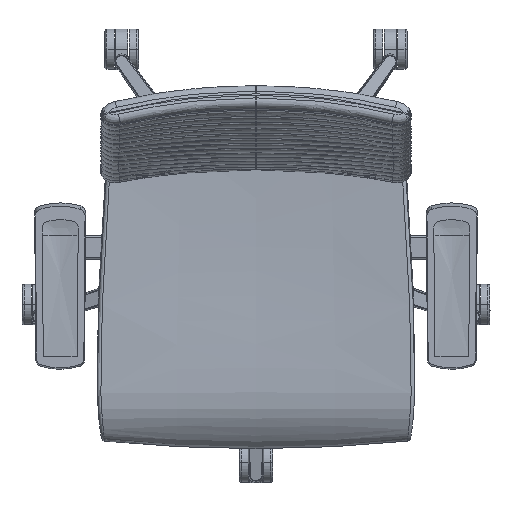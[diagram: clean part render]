
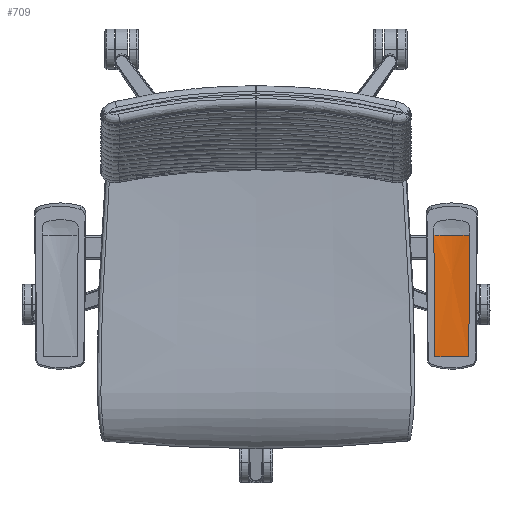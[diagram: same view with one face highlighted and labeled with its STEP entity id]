
A CAD part, top view. The second image highlights one B-rep face of the part: STEP entity #709.
In plain terms, the highlighted free-form (B-spline) face has degree [3, 2] with [4, 3] control points.
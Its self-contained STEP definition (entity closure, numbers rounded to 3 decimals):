
#709=ADVANCED_FACE('',(#1426),#9711,.T.);
#1426=FACE_OUTER_BOUND('',#2143,.T.);
#2143=EDGE_LOOP('',(#4772,#4773,#4774,#4775,#4776));
#4772=ORIENTED_EDGE('',*,*,#6679,.T.);
#4773=ORIENTED_EDGE('',*,*,#6677,.T.);
#4774=ORIENTED_EDGE('',*,*,#6678,.T.);
#4775=ORIENTED_EDGE('',*,*,#6680,.T.);
#4776=ORIENTED_EDGE('',*,*,#6696,.T.);
#6677=EDGE_CURVE('',#9407,#9408,#7266,.T.);
#6678=EDGE_CURVE('',#9408,#9406,#7267,.T.);
#6679=EDGE_CURVE('',#9409,#9407,#7268,.T.);
#6680=EDGE_CURVE('',#9406,#9410,#7269,.T.);
#6696=EDGE_CURVE('',#9410,#9409,#8477,.T.);
#7266=(
BOUNDED_CURVE()
B_SPLINE_CURVE(2,(#52786,#52787,#52788),.UNSPECIFIED.,.F.,.F.)
B_SPLINE_CURVE_WITH_KNOTS((3,3),(0.,26.864),.UNSPECIFIED.)
CURVE()
GEOMETRIC_REPRESENTATION_ITEM()
RATIONAL_B_SPLINE_CURVE((1.,0.994,1.))
REPRESENTATION_ITEM('')
);
#7267=(
BOUNDED_CURVE()
B_SPLINE_CURVE(2,(#52789,#52790,#52791),.UNSPECIFIED.,.F.,.F.)
B_SPLINE_CURVE_WITH_KNOTS((3,3),(-26.864,0.),.UNSPECIFIED.)
CURVE()
GEOMETRIC_REPRESENTATION_ITEM()
RATIONAL_B_SPLINE_CURVE((1.,0.994,1.))
REPRESENTATION_ITEM('')
);
#7268=(
BOUNDED_CURVE()
B_SPLINE_CURVE(3,(#52792,#52793,#52794,#52795),.UNSPECIFIED.,.F.,.F.)
B_SPLINE_CURVE_WITH_KNOTS((4,4),(0.,180.167),.UNSPECIFIED.)
CURVE()
GEOMETRIC_REPRESENTATION_ITEM()
RATIONAL_B_SPLINE_CURVE((1.,1.,1.,1.))
REPRESENTATION_ITEM('')
);
#7269=(
BOUNDED_CURVE()
B_SPLINE_CURVE(3,(#52796,#52797,#52798,#52799),.UNSPECIFIED.,.F.,.F.)
B_SPLINE_CURVE_WITH_KNOTS((4,4),(-180.167,0.),.UNSPECIFIED.)
CURVE()
GEOMETRIC_REPRESENTATION_ITEM()
RATIONAL_B_SPLINE_CURVE((1.,1.,1.,1.))
REPRESENTATION_ITEM('')
);
#8477=B_SPLINE_CURVE_WITH_KNOTS('',1,(#52861,#52862),.UNSPECIFIED.,.F.,
 .F.,(2,2),(0.,50.276),.UNSPECIFIED.);
#9406=VERTEX_POINT('',#52758);
#9407=VERTEX_POINT('',#52759);
#9408=VERTEX_POINT('',#52760);
#9409=VERTEX_POINT('',#52761);
#9410=VERTEX_POINT('',#52762);
#9711=(
BOUNDED_SURFACE()
B_SPLINE_SURFACE(3,2,((#52678,#52679,#52680),(#52681,#52682,#52683),(#52684,
#52685,#52686),(#52687,#52688,#52689)),.UNSPECIFIED.,.F.,.F.,.F.)
B_SPLINE_SURFACE_WITH_KNOTS((4,4),(3,3),(0.,180.167),(-53.728,
0.),.UNSPECIFIED.)
GEOMETRIC_REPRESENTATION_ITEM()
RATIONAL_B_SPLINE_SURFACE(((1.,0.975,1.),(1.,0.975,
1.),(1.,0.975,1.),(1.,0.975,1.)))
REPRESENTATION_ITEM('')
SURFACE()
);
#52678=CARTESIAN_POINT('',(315.828,-164.805,673.407));
#52679=CARTESIAN_POINT('',(290.691,-164.805,673.407));
#52680=CARTESIAN_POINT('',(265.553,-164.805,673.407));
#52681=CARTESIAN_POINT('',(316.329,-104.752,673.259));
#52682=CARTESIAN_POINT('',(290.691,-104.752,673.31));
#52683=CARTESIAN_POINT('',(265.052,-104.752,673.259));
#52684=CARTESIAN_POINT('',(316.829,-44.699,673.11));
#52685=CARTESIAN_POINT('',(290.691,-44.713,667.198));
#52686=CARTESIAN_POINT('',(264.552,-44.699,673.11));
#52687=CARTESIAN_POINT('',(317.33,15.355,672.962));
#52688=CARTESIAN_POINT('',(290.691,15.34,666.885));
#52689=CARTESIAN_POINT('',(264.051,15.355,672.962));
#52758=CARTESIAN_POINT('',(264.051,15.355,672.962));
#52759=CARTESIAN_POINT('',(317.33,15.355,672.962));
#52760=CARTESIAN_POINT('',(290.691,15.347,669.962));
#52761=CARTESIAN_POINT('',(315.828,-164.805,673.407));
#52762=CARTESIAN_POINT('',(265.553,-164.805,673.407));
#52786=CARTESIAN_POINT('',(317.33,15.355,672.962));
#52787=CARTESIAN_POINT('',(304.179,15.347,669.962));
#52788=CARTESIAN_POINT('',(290.691,15.347,669.962));
#52789=CARTESIAN_POINT('',(290.691,15.347,669.962));
#52790=CARTESIAN_POINT('',(277.202,15.347,669.962));
#52791=CARTESIAN_POINT('',(264.051,15.355,672.962));
#52792=CARTESIAN_POINT('',(315.828,-164.805,673.407));
#52793=CARTESIAN_POINT('',(316.329,-104.752,673.259));
#52794=CARTESIAN_POINT('',(316.829,-44.699,673.11));
#52795=CARTESIAN_POINT('',(317.33,15.355,672.962));
#52796=CARTESIAN_POINT('',(264.051,15.355,672.962));
#52797=CARTESIAN_POINT('',(264.552,-44.699,673.11));
#52798=CARTESIAN_POINT('',(265.052,-104.752,673.259));
#52799=CARTESIAN_POINT('',(265.553,-164.805,673.407));
#52861=CARTESIAN_POINT('',(265.553,-164.805,673.407));
#52862=CARTESIAN_POINT('',(315.828,-164.805,673.407));
